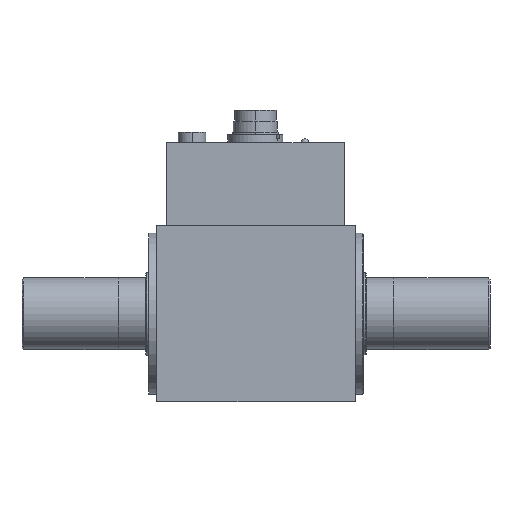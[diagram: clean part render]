
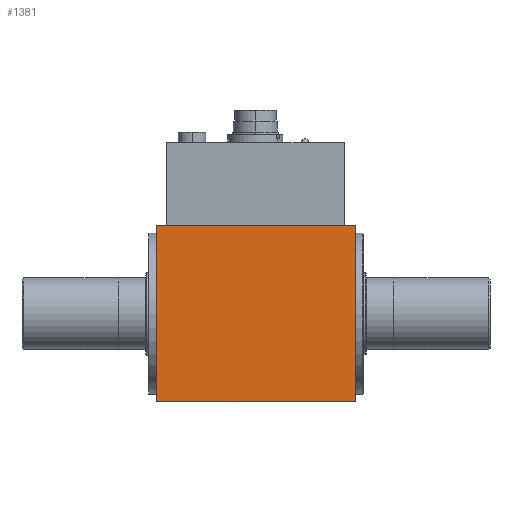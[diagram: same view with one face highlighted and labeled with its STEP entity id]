
A CAD part, top view. The second image highlights one B-rep face of the part: STEP entity #1381.
In plain terms, the highlighted planar face has unit normal (0, 0, 1).
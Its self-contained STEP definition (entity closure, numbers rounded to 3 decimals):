
#1381=ADVANCED_FACE('',(#3319),#3320,.T.);
#3319=FACE_OUTER_BOUND('',#5870,.T.);
#3320=PLANE('',#5871);
#5870=EDGE_LOOP('',(#10521,#10522,#10523,#10524));
#5871=AXIS2_PLACEMENT_3D('',#10525,#10526,#10527);
#10521=ORIENTED_EDGE('',*,*,#16360,.F.);
#10522=ORIENTED_EDGE('',*,*,#16365,.F.);
#10523=ORIENTED_EDGE('',*,*,#16366,.F.);
#10524=ORIENTED_EDGE('',*,*,#16367,.F.);
#10525=CARTESIAN_POINT('',(85.013,0.,32.0));
#10526=DIRECTION('',(0.0,0.0,1.0));
#10527=DIRECTION('',(1.0,-0.0,0.0));
#16360=EDGE_CURVE('',#19849,#19850,#19851,.T.);
#16365=EDGE_CURVE('',#19858,#19849,#19859,.T.);
#16366=EDGE_CURVE('',#19860,#19858,#19861,.T.);
#16367=EDGE_CURVE('',#19850,#19860,#19862,.T.);
#19849=VERTEX_POINT('',#24635);
#19850=VERTEX_POINT('',#24636);
#19851=LINE('',#24637,#24638);
#19858=VERTEX_POINT('',#24648);
#19859=LINE('',#24649,#24650);
#19860=VERTEX_POINT('',#24651);
#19861=LINE('',#24652,#24653);
#19862=LINE('',#24654,#24655);
#24635=CARTESIAN_POINT('',(49.013,32.,32.0));
#24636=CARTESIAN_POINT('',(121.013,32.,32.));
#24637=CARTESIAN_POINT('',(49.013,32.,32.0));
#24638=VECTOR('',#30545,72.0);
#24648=CARTESIAN_POINT('',(49.013,-32.,32.0));
#24649=CARTESIAN_POINT('',(49.013,-32.,32.0));
#24650=VECTOR('',#30549,64.0);
#24651=CARTESIAN_POINT('',(121.013,-32.,32.));
#24652=CARTESIAN_POINT('',(121.013,-32.,32.));
#24653=VECTOR('',#30550,72.0);
#24654=CARTESIAN_POINT('',(121.013,32.,32.));
#24655=VECTOR('',#30551,64.0);
#30545=DIRECTION('',(1.0,0.0,0.0));
#30549=DIRECTION('',(0.0,1.0,0.0));
#30550=DIRECTION('',(-1.0,0.0,0.0));
#30551=DIRECTION('',(0.0,-1.0,0.0));
